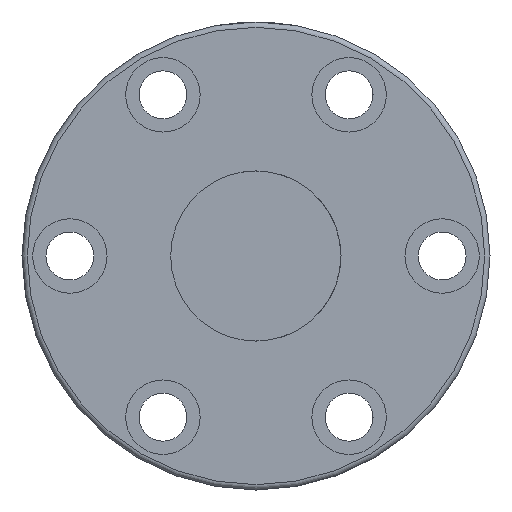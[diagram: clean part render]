
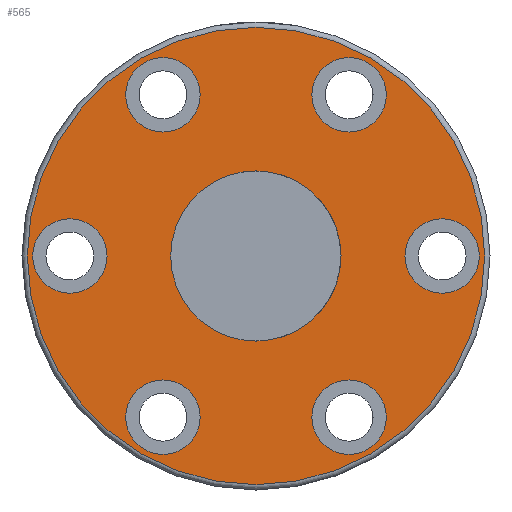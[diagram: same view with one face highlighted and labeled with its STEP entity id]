
A CAD part, front view. The second image highlights one B-rep face of the part: STEP entity #565.
In plain terms, the highlighted planar face has unit normal (0, -1, 0).
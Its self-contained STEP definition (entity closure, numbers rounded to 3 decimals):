
#4 = DIRECTION ( 'NONE',  ( 0., 1., 0. ) ) ;
#7 = EDGE_CURVE ( 'NONE', #662, #662, #816, .T. ) ;
#17 = CARTESIAN_POINT ( 'NONE',  ( 17.539, -42.461, 30.311 ) ) ;
#47 = DIRECTION ( 'NONE',  ( 0., 1., 0. ) ) ;
#64 = CARTESIAN_POINT ( 'NONE',  ( 35.039, -42.461, 7. ) ) ;
#69 = CIRCLE ( 'NONE', #810, 7. ) ;
#80 = CARTESIAN_POINT ( 'NONE',  ( -17.461, -42.461, 37.311 ) ) ;
#83 = FACE_BOUND ( 'NONE', #577, .T. ) ;
#87 = EDGE_CURVE ( 'NONE', #384, #384, #135, .T. ) ;
#132 = CARTESIAN_POINT ( 'NONE',  ( 0.039, -42.461, 43. ) ) ;
#135 = CIRCLE ( 'NONE', #496, 43. ) ;
#145 = VERTEX_POINT ( 'NONE', #64 ) ;
#156 = EDGE_LOOP ( 'NONE', ( #183 ) ) ;
#161 = VERTEX_POINT ( 'NONE', #1019 ) ;
#178 = FACE_BOUND ( 'NONE', #557, .T. ) ;
#183 = ORIENTED_EDGE ( 'NONE', *, *, #7, .T. ) ;
#201 = CARTESIAN_POINT ( 'NONE',  ( -34.961, -42.461, 0. ) ) ;
#205 = DIRECTION ( 'NONE',  ( 0., 0., 1. ) ) ;
#264 = DIRECTION ( 'NONE',  ( 0., 0., 1. ) ) ;
#283 = DIRECTION ( 'NONE',  ( 0., 1., 0. ) ) ;
#305 = ORIENTED_EDGE ( 'NONE', *, *, #87, .T. ) ;
#338 = EDGE_LOOP ( 'NONE', ( #760 ) ) ;
#348 = EDGE_CURVE ( 'NONE', #740, #740, #884, .T. ) ;
#359 = CIRCLE ( 'NONE', #715, 7. ) ;
#376 = CARTESIAN_POINT ( 'NONE',  ( 17.539, -42.461, 37.311 ) ) ;
#384 = VERTEX_POINT ( 'NONE', #132 ) ;
#386 = CARTESIAN_POINT ( 'NONE',  ( -17.461, -42.461, -30.311 ) ) ;
#391 = DIRECTION ( 'NONE',  ( 0., 0., 1. ) ) ;
#403 = EDGE_LOOP ( 'NONE', ( #978 ) ) ;
#430 = FACE_BOUND ( 'NONE', #403, .T. ) ;
#447 = CARTESIAN_POINT ( 'NONE',  ( -17.461, -42.461, 30.311 ) ) ;
#458 = DIRECTION ( 'NONE',  ( 0., 0., 1. ) ) ;
#472 = CARTESIAN_POINT ( 'NONE',  ( 35.039, -42.461, 0. ) ) ;
#476 = DIRECTION ( 'NONE',  ( 0., 0., 1. ) ) ;
#492 = VERTEX_POINT ( 'NONE', #777 ) ;
#496 = AXIS2_PLACEMENT_3D ( 'NONE', #633, #732, #205 ) ;
#505 = AXIS2_PLACEMENT_3D ( 'NONE', #870, #4, #264 ) ;
#515 = VERTEX_POINT ( 'NONE', #80 ) ;
#533 = DIRECTION ( 'NONE',  ( 0., 1., 0. ) ) ;
#550 = CARTESIAN_POINT ( 'NONE',  ( -17.461, -42.461, -23.311 ) ) ;
#557 = EDGE_LOOP ( 'NONE', ( #830 ) ) ;
#565 = ADVANCED_FACE ( 'NONE', ( #178, #83, #430, #1050, #786, #1131, #620, #964 ), #734, .F. ) ;
#577 = EDGE_LOOP ( 'NONE', ( #707 ) ) ;
#584 = CARTESIAN_POINT ( 'NONE',  ( -15.961, -42.461, 0. ) ) ;
#620 = FACE_OUTER_BOUND ( 'NONE', #998, .T. ) ;
#633 = CARTESIAN_POINT ( 'NONE',  ( 0.039, -42.461, 0. ) ) ;
#634 = AXIS2_PLACEMENT_3D ( 'NONE', #17, #283, #458 ) ;
#638 = AXIS2_PLACEMENT_3D ( 'NONE', #1072, #981, #813 ) ;
#647 = EDGE_CURVE ( 'NONE', #515, #515, #69, .T. ) ;
#655 = DIRECTION ( 'NONE',  ( 1., 0., 0. ) ) ;
#662 = VERTEX_POINT ( 'NONE', #376 ) ;
#673 = EDGE_LOOP ( 'NONE', ( #874 ) ) ;
#707 = ORIENTED_EDGE ( 'NONE', *, *, #852, .T. ) ;
#715 = AXIS2_PLACEMENT_3D ( 'NONE', #201, #797, #1048 ) ;
#732 = DIRECTION ( 'NONE',  ( 0., -1., 0. ) ) ;
#734 = PLANE ( 'NONE',  #947 ) ;
#735 = EDGE_CURVE ( 'NONE', #492, #492, #1113, .T. ) ;
#740 = VERTEX_POINT ( 'NONE', #550 ) ;
#760 = ORIENTED_EDGE ( 'NONE', *, *, #1013, .T. ) ;
#766 = ORIENTED_EDGE ( 'NONE', *, *, #647, .T. ) ;
#777 = CARTESIAN_POINT ( 'NONE',  ( 17.539, -42.461, -23.311 ) ) ;
#786 = FACE_BOUND ( 'NONE', #156, .T. ) ;
#797 = DIRECTION ( 'NONE',  ( 0., 1., 0. ) ) ;
#810 = AXIS2_PLACEMENT_3D ( 'NONE', #447, #533, #865 ) ;
#813 = DIRECTION ( 'NONE',  ( -1., 0., 0. ) ) ;
#816 = CIRCLE ( 'NONE', #634, 7. ) ;
#821 = AXIS2_PLACEMENT_3D ( 'NONE', #472, #916, #476 ) ;
#830 = ORIENTED_EDGE ( 'NONE', *, *, #1053, .T. ) ;
#834 = EDGE_LOOP ( 'NONE', ( #766 ) ) ;
#841 = VERTEX_POINT ( 'NONE', #584 ) ;
#852 = EDGE_CURVE ( 'NONE', #161, #161, #359, .T. ) ;
#865 = DIRECTION ( 'NONE',  ( 0., 0., 1. ) ) ;
#870 = CARTESIAN_POINT ( 'NONE',  ( 17.539, -42.461, -30.311 ) ) ;
#874 = ORIENTED_EDGE ( 'NONE', *, *, #348, .T. ) ;
#884 = CIRCLE ( 'NONE', #933, 7. ) ;
#906 = CIRCLE ( 'NONE', #821, 7. ) ;
#916 = DIRECTION ( 'NONE',  ( 0., 1., 0. ) ) ;
#933 = AXIS2_PLACEMENT_3D ( 'NONE', #386, #47, #391 ) ;
#947 = AXIS2_PLACEMENT_3D ( 'NONE', #1058, #1092, #655 ) ;
#964 = FACE_BOUND ( 'NONE', #338, .T. ) ;
#978 = ORIENTED_EDGE ( 'NONE', *, *, #735, .T. ) ;
#981 = DIRECTION ( 'NONE',  ( 0., 1., 0. ) ) ;
#998 = EDGE_LOOP ( 'NONE', ( #305 ) ) ;
#1013 = EDGE_CURVE ( 'NONE', #841, #841, #1107, .T. ) ;
#1019 = CARTESIAN_POINT ( 'NONE',  ( -34.961, -42.461, 7. ) ) ;
#1048 = DIRECTION ( 'NONE',  ( 0., 0., 1. ) ) ;
#1050 = FACE_BOUND ( 'NONE', #673, .T. ) ;
#1053 = EDGE_CURVE ( 'NONE', #145, #145, #906, .T. ) ;
#1058 = CARTESIAN_POINT ( 'NONE',  ( 0.039, -42.461, 0. ) ) ;
#1072 = CARTESIAN_POINT ( 'NONE',  ( 0.039, -42.461, 0. ) ) ;
#1092 = DIRECTION ( 'NONE',  ( 0., 1., 0. ) ) ;
#1107 = CIRCLE ( 'NONE', #638, 16. ) ;
#1113 = CIRCLE ( 'NONE', #505, 7. ) ;
#1131 = FACE_BOUND ( 'NONE', #834, .T. ) ;
